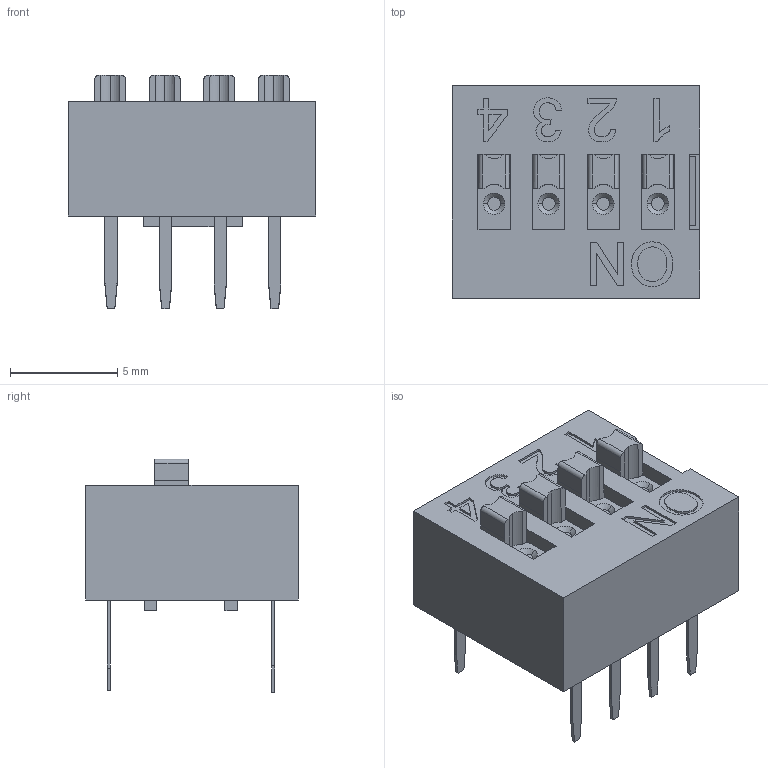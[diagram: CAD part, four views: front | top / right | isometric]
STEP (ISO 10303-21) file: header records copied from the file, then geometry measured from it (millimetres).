
FILE_DESCRIPTION (( 'STEP AP214' ), '1' );
FILE_NAME ('DS-04.STEP', '2018-12-20T04:31:49', ( '' ), ( '' ), 'SwSTEP 2.0', 'SolidWorks 2017', '' );
FILE_SCHEMA (( 'AUTOMOTIVE_DESIGN' ));
Length unit declared in the file: millimetre
Products named in the file (6): PS-01_修改後; PH-02~04; PA-04_切BAR後; PB-04_切BAR後; PC-08_PC-04; DS-04
Assembly tree (8 placements, depth 2):
  DS-04
    PC-08_PC-04
    PB-04_切BAR後
    PA-04_切BAR後
    PH-02~04
    PS-01_修改後  x4
Bounding box: 11.52 x 9.9 x 10.87 mm (x, y, z)
Volume: 414.4 mm3; surface area: 1543.3 mm2
Topology: 8 solids, 8 shells, 700 faces, 1976 edges, 1311 vertices
Faces by surface type: plane 528, cylinder 83, bspline 73, cone 16
Entity records: 22565 total; most frequent: CARTESIAN_POINT 8144, ORIENTED_EDGE 3242, DIRECTION 2335, EDGE_CURVE 1621, VECTOR 1113, LINE 1113, VERTEX_POINT 1086, EDGE_LOOP 617
